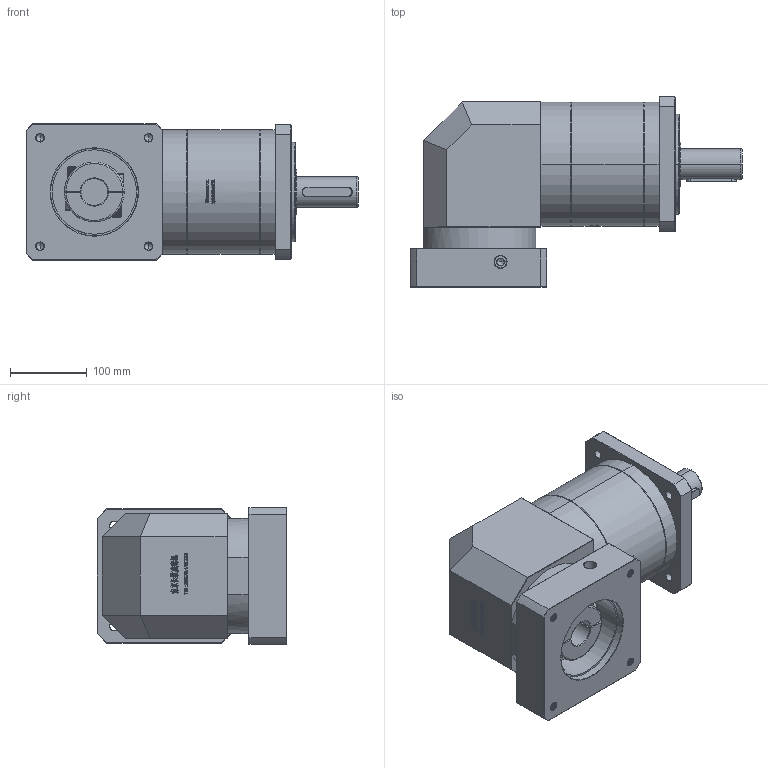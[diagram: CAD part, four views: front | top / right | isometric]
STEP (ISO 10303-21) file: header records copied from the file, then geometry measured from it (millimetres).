
FILE_DESCRIPTION (( 'STEP AP214' ), '1' );
FILE_NAME ('ZFR160A-D40-L3-35-114.3-200-M12.step', '2023-03-22T11:46:09', ( '' ), ( '' ), 'SwSTEP 2.0', 'SolidWorks 2016', '' );
FILE_SCHEMA (( 'AUTOMOTIVE_DESIGN' ));
Length unit declared in the file: millimetre
Products named in the file (1): ZFR160A-D40-L3-35-114.3-200-M12
Bounding box: 432.7 x 247.5 x 178 mm (x, y, z)
Volume: 8747202.9 mm3; surface area: 507864.3 mm2
Topology: 6 solids, 6 shells, 2509 faces, 6600 edges, 4245 vertices
Faces by surface type: plane 1273, bspline 497, cylinder 403, cone 314, torus 22
Entity records: 142201 total; most frequent: CARTESIAN_POINT 56975, ORIENTED_EDGE 13140, DIRECTION 10017, EDGE_CURVE 6570, VERTEX_POINT 4245, VECTOR 4153, LINE 4153, AXIS2_PLACEMENT_3D 2932
